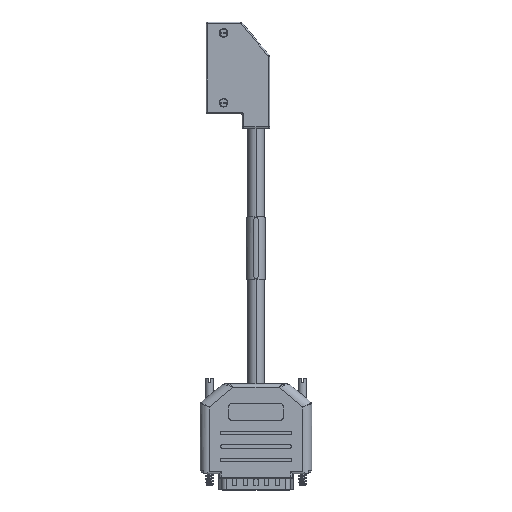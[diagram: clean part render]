
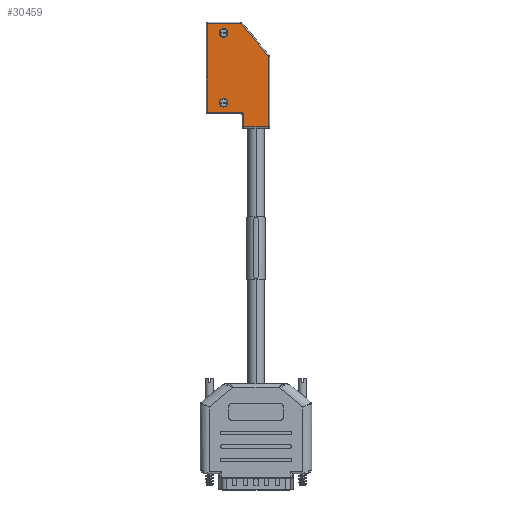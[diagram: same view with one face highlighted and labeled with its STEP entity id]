
A CAD part, top view. The second image highlights one B-rep face of the part: STEP entity #30459.
In plain terms, the highlighted planar face has unit normal (0, 0, 1).
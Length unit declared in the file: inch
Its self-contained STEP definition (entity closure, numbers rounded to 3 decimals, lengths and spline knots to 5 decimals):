
#564 = VERTEX_POINT ( 'NONE', #31756 ) ;
#893 = EDGE_CURVE ( 'NONE', #31810, #20800, #3526, .T. ) ;
#1217 = VERTEX_POINT ( 'NONE', #32938 ) ;
#1259 = CARTESIAN_POINT ( 'NONE',  ( 1.49987, 4.05396, 0.63722 ) ) ;
#1577 = ORIENTED_EDGE ( 'NONE', *, *, #2212, .T. ) ;
#1764 = CARTESIAN_POINT ( 'NONE',  ( 2.15187, 3.71265, 0.63722 ) ) ;
#2212 = EDGE_CURVE ( 'NONE', #564, #16871, #6342, .T. ) ;
#2297 = ORIENTED_EDGE ( 'NONE', *, *, #27748, .T. ) ;
#3232 = VECTOR ( 'NONE', #5724, 39.37008 ) ;
#3526 = LINE ( 'NONE', #27844, #14131 ) ;
#3606 = VECTOR ( 'NONE', #34036, 39.37008 ) ;
#3909 = DIRECTION ( 'NONE',  ( -1., 0., 0. ) ) ;
#4538 = EDGE_CURVE ( 'NONE', #18586, #1217, #25015, .T. ) ;
#4591 = DIRECTION ( 'NONE',  ( 0., 1., 0. ) ) ;
#4809 = DIRECTION ( 'NONE',  ( 0., -1., 0. ) ) ;
#4926 = ORIENTED_EDGE ( 'NONE', *, *, #19188, .T. ) ;
#4996 = FACE_BOUND ( 'NONE', #9602, .T. ) ;
#5425 = CIRCLE ( 'NONE', #13325, 0.06 ) ;
#5476 = VECTOR ( 'NONE', #9783, 39.37008 ) ;
#5724 = DIRECTION ( 'NONE',  ( 0., -1., 0. ) ) ;
#6342 = CIRCLE ( 'NONE', #10288, 0.06 ) ;
#6987 = CARTESIAN_POINT ( 'NONE',  ( 1.74219, 3.87928, 0.63722 ) ) ;
#7127 = VECTOR ( 'NONE', #3909, 39.37008 ) ;
#7331 = DIRECTION ( 'NONE',  ( 0., 1., 0. ) ) ;
#7346 = DIRECTION ( 'NONE',  ( 0., 0., 1. ) ) ;
#8862 = AXIS2_PLACEMENT_3D ( 'NONE', #15735, #31975, #4809 ) ;
#9019 = DIRECTION ( 'NONE',  ( 0., 0., -1. ) ) ;
#9260 = CIRCLE ( 'NONE', #34557, 0.06 ) ;
#9602 = EDGE_LOOP ( 'NONE', ( #2297, #20189 ) ) ;
#9636 = DIRECTION ( 'NONE',  ( 0., -1., 0. ) ) ;
#9702 = CARTESIAN_POINT ( 'NONE',  ( 1.49987, 4.05396, 0.63722 ) ) ;
#9783 = DIRECTION ( 'NONE',  ( 1., 0., 0. ) ) ;
#9812 = CARTESIAN_POINT ( 'NONE',  ( 1.74219, 3.91865, 0.63722 ) ) ;
#10142 = CARTESIAN_POINT ( 'NONE',  ( 1.78156, 3.69296, 0.63722 ) ) ;
#10172 = DIRECTION ( 'NONE',  ( 0., 1., 0. ) ) ;
#10288 = AXIS2_PLACEMENT_3D ( 'NONE', #22939, #9019, #33699 ) ;
#10565 = VERTEX_POINT ( 'NONE', #21423 ) ;
#10649 = VERTEX_POINT ( 'NONE', #30587 ) ;
#10931 = ORIENTED_EDGE ( 'NONE', *, *, #27048, .T. ) ;
#11451 = ORIENTED_EDGE ( 'NONE', *, *, #21596, .T. ) ;
#12273 = CARTESIAN_POINT ( 'NONE',  ( 2.13219, 4.71626, 0.63722 ) ) ;
#12698 = LINE ( 'NONE', #23115, #7127 ) ;
#12763 = VERTEX_POINT ( 'NONE', #9812 ) ;
#13325 = AXIS2_PLACEMENT_3D ( 'NONE', #9702, #34040, #4591 ) ;
#14131 = VECTOR ( 'NONE', #25239, 39.37008 ) ;
#15127 = CIRCLE ( 'NONE', #30914, 0.03937 ) ;
#15260 = LINE ( 'NONE', #12273, #33000 ) ;
#15537 = CARTESIAN_POINT ( 'NONE',  ( 1.74269, 5.17328, 0.63722 ) ) ;
#15680 = EDGE_CURVE ( 'NONE', #10565, #12763, #15127, .T. ) ;
#15735 = CARTESIAN_POINT ( 'NONE',  ( 1.25187, 3.69296, 0.63722 ) ) ;
#16326 = CARTESIAN_POINT ( 'NONE',  ( 1.49987, 4.11396, 0.63722 ) ) ;
#16650 = CARTESIAN_POINT ( 'NONE',  ( 1.49987, 4.97796, 0.63722 ) ) ;
#16871 = VERTEX_POINT ( 'NONE', #16650 ) ;
#17882 = PLANE ( 'NONE',  #8862 ) ;
#18265 = CARTESIAN_POINT ( 'NONE',  ( 1.49987, 5.03796, 0.63722 ) ) ;
#18468 = ORIENTED_EDGE ( 'NONE', *, *, #15680, .F. ) ;
#18586 = VERTEX_POINT ( 'NONE', #16326 ) ;
#18851 = EDGE_CURVE ( 'NONE', #22787, #12763, #25669, .T. ) ;
#19188 = EDGE_CURVE ( 'NONE', #10649, #22787, #21777, .T. ) ;
#20189 = ORIENTED_EDGE ( 'NONE', *, *, #4538, .T. ) ;
#20639 = CARTESIAN_POINT ( 'NONE',  ( 2.13219, 3.71265, 0.63722 ) ) ;
#20800 = VERTEX_POINT ( 'NONE', #15537 ) ;
#20887 = ORIENTED_EDGE ( 'NONE', *, *, #25300, .T. ) ;
#20899 = DIRECTION ( 'NONE',  ( 0., -1., 0. ) ) ;
#21423 = CARTESIAN_POINT ( 'NONE',  ( 1.78156, 3.87928, 0.63722 ) ) ;
#21444 = CARTESIAN_POINT ( 'NONE',  ( 2.13219, 4.70909, 0.63722 ) ) ;
#21596 = EDGE_CURVE ( 'NONE', #10565, #30930, #34118, .T. ) ;
#21777 = LINE ( 'NONE', #32549, #3232 ) ;
#22196 = AXIS2_PLACEMENT_3D ( 'NONE', #1259, #30899, #25064 ) ;
#22534 = VERTEX_POINT ( 'NONE', #20639 ) ;
#22640 = ORIENTED_EDGE ( 'NONE', *, *, #27830, .T. ) ;
#22787 = VERTEX_POINT ( 'NONE', #34600 ) ;
#22939 = CARTESIAN_POINT ( 'NONE',  ( 1.49987, 5.03796, 0.63722 ) ) ;
#23115 = CARTESIAN_POINT ( 'NONE',  ( 1.25187, 5.17328, 0.63722 ) ) ;
#23316 = ORIENTED_EDGE ( 'NONE', *, *, #32494, .T. ) ;
#25015 = CIRCLE ( 'NONE', #22196, 0.06 ) ;
#25064 = DIRECTION ( 'NONE',  ( 0., 1., 0. ) ) ;
#25239 = DIRECTION ( 'NONE',  ( -0.643, 0.766, 0. ) ) ;
#25300 = EDGE_CURVE ( 'NONE', #16871, #564, #9260, .T. ) ;
#25449 = ORIENTED_EDGE ( 'NONE', *, *, #893, .T. ) ;
#25659 = CARTESIAN_POINT ( 'NONE',  ( 1.78156, 3.71265, 0.63722 ) ) ;
#25669 = LINE ( 'NONE', #33951, #5476 ) ;
#26336 = FACE_BOUND ( 'NONE', #34082, .T. ) ;
#27048 = EDGE_CURVE ( 'NONE', #22534, #31810, #15260, .T. ) ;
#27352 = VECTOR ( 'NONE', #20899, 39.37008 ) ;
#27748 = EDGE_CURVE ( 'NONE', #1217, #18586, #5425, .T. ) ;
#27830 = EDGE_CURVE ( 'NONE', #20800, #10649, #12698, .T. ) ;
#27844 = CARTESIAN_POINT ( 'NONE',  ( 1.73679, 5.18031, 0.63722 ) ) ;
#28641 = ORIENTED_EDGE ( 'NONE', *, *, #18851, .T. ) ;
#28900 = LINE ( 'NONE', #1764, #3606 ) ;
#30459 = ADVANCED_FACE ( 'NONE', ( #31468, #26336, #4996 ), #17882, .T. ) ;
#30587 = CARTESIAN_POINT ( 'NONE',  ( 1.27156, 5.17328, 0.63722 ) ) ;
#30788 = EDGE_LOOP ( 'NONE', ( #22640, #4926, #28641, #18468, #11451, #23316, #10931, #25449 ) ) ;
#30899 = DIRECTION ( 'NONE',  ( 0., 0., -1. ) ) ;
#30914 = AXIS2_PLACEMENT_3D ( 'NONE', #6987, #7346, #9636 ) ;
#30930 = VERTEX_POINT ( 'NONE', #25659 ) ;
#31468 = FACE_OUTER_BOUND ( 'NONE', #30788, .T. ) ;
#31756 = CARTESIAN_POINT ( 'NONE',  ( 1.49987, 5.09796, 0.63722 ) ) ;
#31810 = VERTEX_POINT ( 'NONE', #21444 ) ;
#31975 = DIRECTION ( 'NONE',  ( 0., 0., 1. ) ) ;
#32494 = EDGE_CURVE ( 'NONE', #30930, #22534, #28900, .T. ) ;
#32549 = CARTESIAN_POINT ( 'NONE',  ( 1.27156, 3.91865, 0.63722 ) ) ;
#32938 = CARTESIAN_POINT ( 'NONE',  ( 1.49987, 3.99396, 0.63722 ) ) ;
#33000 = VECTOR ( 'NONE', #7331, 39.37008 ) ;
#33699 = DIRECTION ( 'NONE',  ( 0., 1., 0. ) ) ;
#33951 = CARTESIAN_POINT ( 'NONE',  ( 1.76187, 3.91865, 0.63722 ) ) ;
#34036 = DIRECTION ( 'NONE',  ( 1., 0., 0. ) ) ;
#34040 = DIRECTION ( 'NONE',  ( 0., 0., -1. ) ) ;
#34082 = EDGE_LOOP ( 'NONE', ( #20887, #1577 ) ) ;
#34118 = LINE ( 'NONE', #10142, #27352 ) ;
#34326 = DIRECTION ( 'NONE',  ( 0., 0., -1. ) ) ;
#34557 = AXIS2_PLACEMENT_3D ( 'NONE', #18265, #34326, #10172 ) ;
#34600 = CARTESIAN_POINT ( 'NONE',  ( 1.27156, 3.91865, 0.63722 ) ) ;
